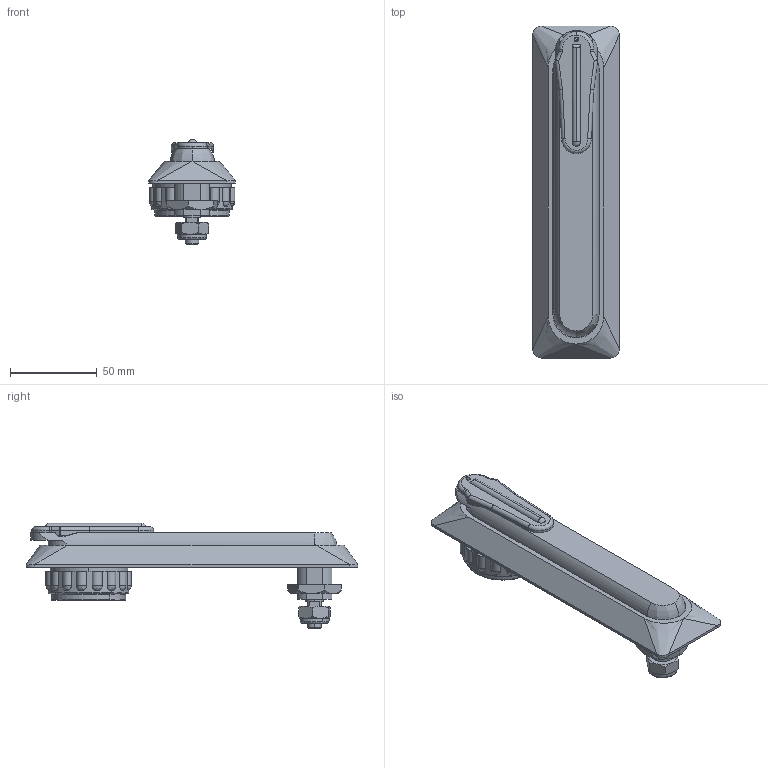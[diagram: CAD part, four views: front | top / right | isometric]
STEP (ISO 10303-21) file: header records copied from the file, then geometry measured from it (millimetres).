
FILE_DESCRIPTION (( 'STEP AP214' ), '1' );
FILE_NAME ('RS130.STEP', '2010-02-26T15:55:18', ( 'Techniczny' ), ( 'RST Roztocze' ), 'SwSTEP 2.0', 'SolidWorks 2010', '' );
FILE_SCHEMA (( 'AUTOMOTIVE_DESIGN' ));
Length unit declared in the file: millimetre
Products named in the file (8): RS200-nakrêtka-ma³a_Domyœlna_1; Szyld RSA_Domyœlna_1; 1B.RS130.01.01.00_Otw. pod ucho_1; 1B RS 130.01.02.01_Domyœlna_1; Nakrêtka M8x5_1; 1B. RS100.02.02.00_Domyœlna_1; 1B.RS 100.01.06.00_Domyœlna_1; RS130
Assembly tree (7 placements, depth 2):
  RS130
    1B.RS 100.01.06.00_Domyœlna_1
    Szyld RSA_Domyœlna_1
    1B. RS100.02.02.00_Domyœlna_1
    1B.RS130.01.01.00_Otw. pod ucho_1
    1B RS 130.01.02.01_Domyœlna_1
    Nakrêtka M8x5_1
    RS200-nakrêtka-ma³a_Domyœlna_1
Bounding box: 50 x 191 x 60.6 mm (x, y, z)
Volume: 120010 mm3; surface area: 66635 mm2
Topology: 7 solids, 7 shells, 429 faces, 1093 edges, 686 vertices
Faces by surface type: cylinder 143, plane 128, bspline 110, cone 48
Entity records: 26750 total; most frequent: CARTESIAN_POINT 12028, ORIENTED_EDGE 2166, DIRECTION 1870, EDGE_CURVE 1083, AXIS2_PLACEMENT_3D 723, VERTEX_POINT 686, EDGE_LOOP 469, UNCERTAINTY_MEASURE_WITH_UNIT 451
